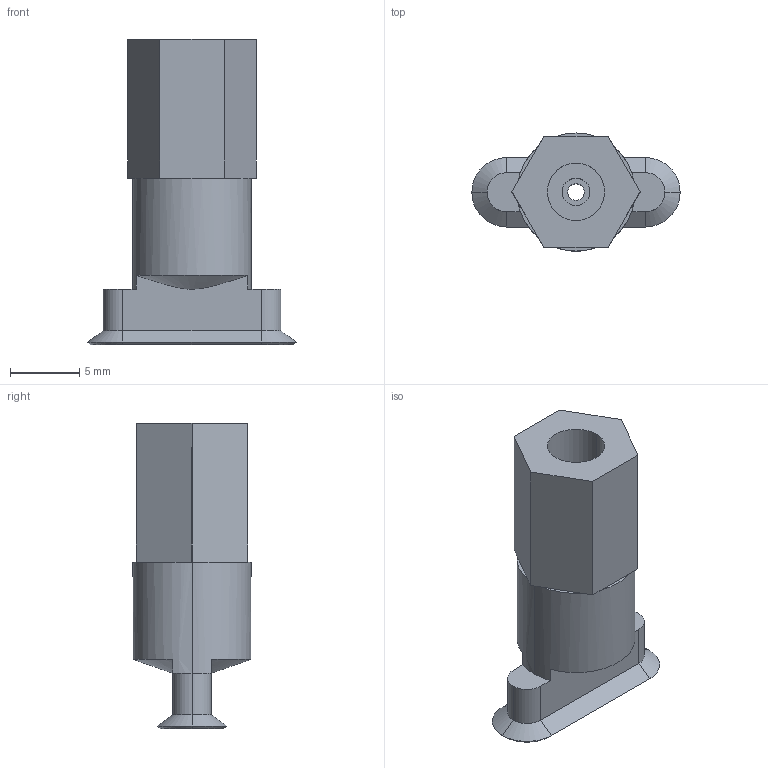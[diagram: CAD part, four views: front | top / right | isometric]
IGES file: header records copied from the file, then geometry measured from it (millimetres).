
Start section: 3D InterOp IGES (v. 2018 1.0.2), Spatial Corp. Copyright (c) 1999-2017.
Global section: file name: schmalz_10_01_05_00418_gzjglgupum2rpwraxau5tw0c.igs; native system: Spatial Corp.; preprocessor: 3D InterOp ACIS/IGES; author: TraceParts; organization: TraceParts S.A.; date: 20181117.014302; units: millimetre
Bounding box: 15 x 8.5 x 22 mm (x, y, z)
Surface area: 970.4 mm2 (no closed solid volume)
Topology: 0 solids, 0 shells, 65 faces, 292 edges, 292 vertices
Faces by surface type: extrusion 33, revolution 32
